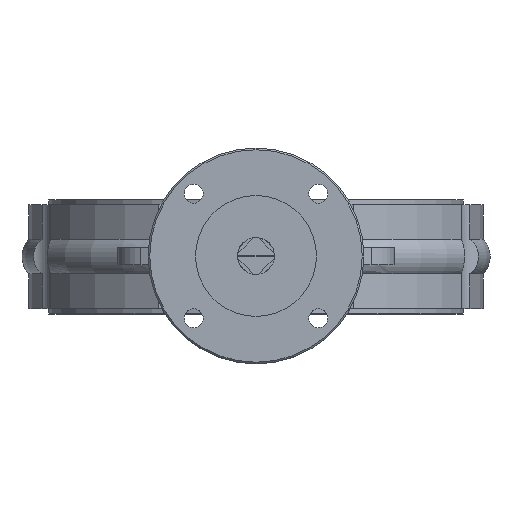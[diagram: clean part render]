
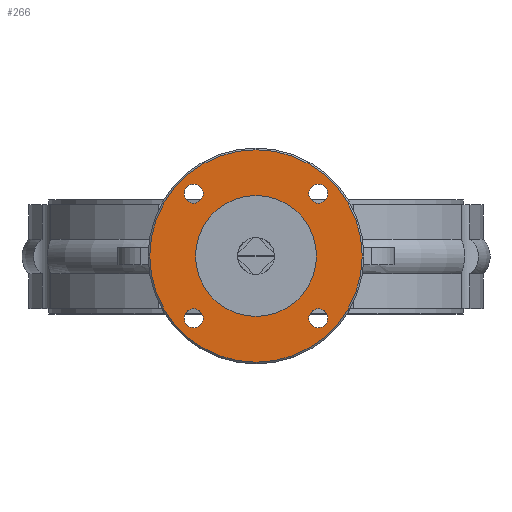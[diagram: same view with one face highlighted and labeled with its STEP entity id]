
A CAD part, top view. The second image highlights one B-rep face of the part: STEP entity #266.
In plain terms, the highlighted planar face has unit normal (0, 0, 1).
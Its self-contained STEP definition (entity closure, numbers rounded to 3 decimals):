
#266 = ADVANCED_FACE( '', ( #702, #703, #704, #705, #706, #707 ), #708, .T. );
#702 = FACE_OUTER_BOUND( '', #1335, .T. );
#703 = FACE_BOUND( '', #1336, .T. );
#704 = FACE_BOUND( '', #1337, .T. );
#705 = FACE_BOUND( '', #1338, .T. );
#706 = FACE_BOUND( '', #1339, .T. );
#707 = FACE_BOUND( '', #1340, .T. );
#708 = PLANE( '', #1341 );
#1335 = EDGE_LOOP( '', ( #3780 ) );
#1336 = EDGE_LOOP( '', ( #3781 ) );
#1337 = EDGE_LOOP( '', ( #3782 ) );
#1338 = EDGE_LOOP( '', ( #3783 ) );
#1339 = EDGE_LOOP( '', ( #3784 ) );
#1340 = EDGE_LOOP( '', ( #3785 ) );
#1341 = AXIS2_PLACEMENT_3D( '', #3786, #3787, #3788 );
#3780 = ORIENTED_EDGE( '', *, *, #5496, .T. );
#3781 = ORIENTED_EDGE( '', *, *, #5497, .T. );
#3782 = ORIENTED_EDGE( '', *, *, #5498, .T. );
#3783 = ORIENTED_EDGE( '', *, *, #5499, .T. );
#3784 = ORIENTED_EDGE( '', *, *, #5500, .T. );
#3785 = ORIENTED_EDGE( '', *, *, #5501, .T. );
#3786 = CARTESIAN_POINT( '', ( 0., 33.2, 225. ) );
#3787 = DIRECTION( '', ( 0., 0., 1. ) );
#3788 = DIRECTION( '', ( 1., 0., 0. ) );
#5496 = EDGE_CURVE( '', #6324, #6324, #6325, .T. );
#5497 = EDGE_CURVE( '', #6326, #6326, #6327, .T. );
#5498 = EDGE_CURVE( '', #6328, #6328, #6329, .T. );
#5499 = EDGE_CURVE( '', #6330, #6330, #6331, .T. );
#5500 = EDGE_CURVE( '', #6332, #6332, #6333, .T. );
#5501 = EDGE_CURVE( '', #6334, #6334, #6335, .T. );
#6324 = VERTEX_POINT( '', #7641 );
#6325 = CIRCLE( '', #7642, 61.5 );
#6326 = VERTEX_POINT( '', #7643 );
#6327 = CIRCLE( '', #7644, 5.5 );
#6328 = VERTEX_POINT( '', #7645 );
#6329 = CIRCLE( '', #7646, 5.5 );
#6330 = VERTEX_POINT( '', #7647 );
#6331 = CIRCLE( '', #7648, 5.5 );
#6332 = VERTEX_POINT( '', #7649 );
#6333 = CIRCLE( '', #7650, 5.5 );
#6334 = VERTEX_POINT( '', #7651 );
#6335 = CIRCLE( '', #7652, 35. );
#7641 = CARTESIAN_POINT( '', ( 61.5, 33.2, 225. ) );
#7642 = AXIS2_PLACEMENT_3D( '', #10495, #10496, #10497 );
#7643 = CARTESIAN_POINT( '', ( -41.562, 69.262, 225. ) );
#7644 = AXIS2_PLACEMENT_3D( '', #10498, #10499, #10500 );
#7645 = CARTESIAN_POINT( '', ( 30.562, 69.262, 225. ) );
#7646 = AXIS2_PLACEMENT_3D( '', #10501, #10502, #10503 );
#7647 = CARTESIAN_POINT( '', ( 30.562, -2.862, 225. ) );
#7648 = AXIS2_PLACEMENT_3D( '', #10504, #10505, #10506 );
#7649 = CARTESIAN_POINT( '', ( -41.562, -2.862, 225. ) );
#7650 = AXIS2_PLACEMENT_3D( '', #10507, #10508, #10509 );
#7651 = CARTESIAN_POINT( '', ( -35., 33.2, 225. ) );
#7652 = AXIS2_PLACEMENT_3D( '', #10510, #10511, #10512 );
#10495 = CARTESIAN_POINT( '', ( 0., 33.2, 225. ) );
#10496 = DIRECTION( '', ( 0., 0., 1. ) );
#10497 = DIRECTION( '', ( 1., 0., 0. ) );
#10498 = CARTESIAN_POINT( '', ( -36.062, 69.262, 225. ) );
#10499 = DIRECTION( '', ( 0., 0., -1. ) );
#10500 = DIRECTION( '', ( -1., 0., 0. ) );
#10501 = CARTESIAN_POINT( '', ( 36.062, 69.262, 225. ) );
#10502 = DIRECTION( '', ( 0., 0., -1. ) );
#10503 = DIRECTION( '', ( -1., 0., 0. ) );
#10504 = CARTESIAN_POINT( '', ( 36.062, -2.862, 225. ) );
#10505 = DIRECTION( '', ( 0., 0., -1. ) );
#10506 = DIRECTION( '', ( -1., 0., 0. ) );
#10507 = CARTESIAN_POINT( '', ( -36.062, -2.862, 225. ) );
#10508 = DIRECTION( '', ( 0., 0., -1. ) );
#10509 = DIRECTION( '', ( -1., 0., 0. ) );
#10510 = CARTESIAN_POINT( '', ( 0., 33.2, 225. ) );
#10511 = DIRECTION( '', ( 0., 0., -1. ) );
#10512 = DIRECTION( '', ( -1., 0., 0. ) );
